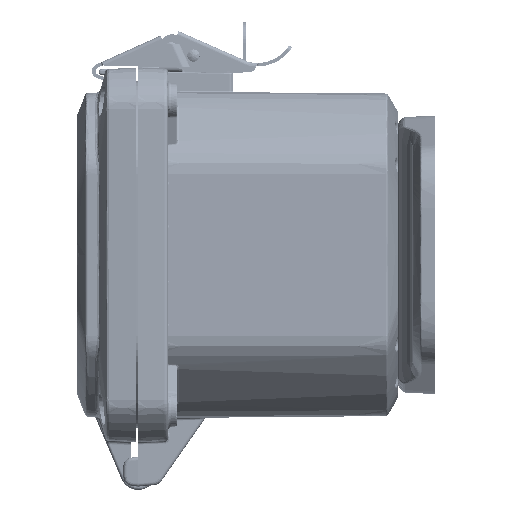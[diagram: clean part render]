
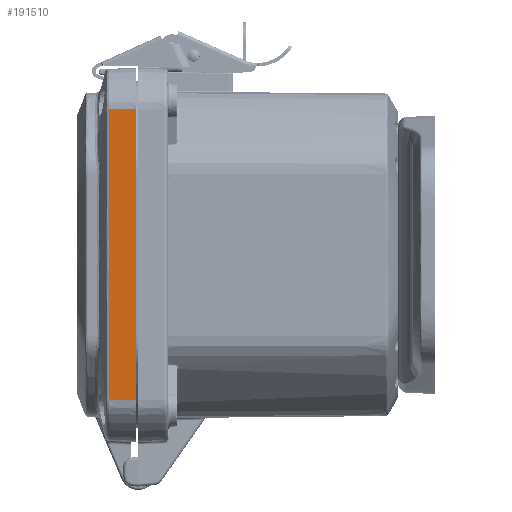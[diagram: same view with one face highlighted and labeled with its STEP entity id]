
A CAD part, left-side view. The second image highlights one B-rep face of the part: STEP entity #191510.
In plain terms, the highlighted planar face has unit normal (-0.999, 0.052, 0).
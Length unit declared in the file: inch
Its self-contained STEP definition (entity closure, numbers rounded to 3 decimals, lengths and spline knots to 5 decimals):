
#8304 = DIRECTION ( 'NONE',  ( -0.052, -0.999, 0. ) ) ;
#11425 = CARTESIAN_POINT ( 'NONE',  ( -3.50089, 0.36472, -1.91677 ) ) ;
#17567 = DIRECTION ( 'NONE',  ( 0., 0., 1. ) ) ;
#19034 = CARTESIAN_POINT ( 'NONE',  ( -3.52, 0., 1.95755 ) ) ;
#34159 = CARTESIAN_POINT ( 'NONE',  ( -3.50089, 0.36462, 0.00001 ) ) ;
#35480 = CARTESIAN_POINT ( 'NONE',  ( -3.52, 0., -1.95755 ) ) ;
#35716 = CARTESIAN_POINT ( 'NONE',  ( -3.5009, 0.36452, 1.67208 ) ) ;
#36004 = CARTESIAN_POINT ( 'NONE',  ( -3.50093, 0.36394, -1.95755 ) ) ;
#39518 = DIRECTION ( 'NONE',  ( -0.052, -0.999, 0. ) ) ;
#48846 = VECTOR ( 'NONE', #39518, 39.37008 ) ;
#54899 = CARTESIAN_POINT ( 'NONE',  ( -3.50093, 0.36394, -1.95755 ) ) ;
#57799 = PLANE ( 'NONE',  #126149 ) ;
#65878 = VERTEX_POINT ( 'NONE', #249072 ) ;
#70466 = CARTESIAN_POINT ( 'NONE',  ( -3.5009, 0.36448, 1.54973 ) ) ;
#71694 = CARTESIAN_POINT ( 'NONE',  ( -3.5009, 0.36447, 0.65252 ) ) ;
#73156 = ORIENTED_EDGE ( 'NONE', *, *, #88389, .F. ) ;
#74128 = CARTESIAN_POINT ( 'NONE',  ( -3.50089, 0.36457, -0.32625 ) ) ;
#75481 = CARTESIAN_POINT ( 'NONE',  ( -3.50089, 0.36457, 0.32626 ) ) ;
#75797 = FACE_OUTER_BOUND ( 'NONE', #114670, .T. ) ;
#82978 = EDGE_CURVE ( 'NONE', #65878, #84564, #133960, .T. ) ;
#84564 = VERTEX_POINT ( 'NONE', #133703 ) ;
#88389 = EDGE_CURVE ( 'NONE', #173795, #84564, #237711, .T. ) ;
#89030 = ORIENTED_EDGE ( 'NONE', *, *, #159435, .T. ) ;
#90849 = CARTESIAN_POINT ( 'NONE',  ( -3.50089, 0.36467, 1.90658 ) ) ;
#93015 = EDGE_CURVE ( 'NONE', #190501, #155354, #172355, .T. ) ;
#108712 = CARTESIAN_POINT ( 'NONE',  ( -3.50089, 0.3646, 1.81482 ) ) ;
#114670 = EDGE_LOOP ( 'NONE', ( #200026, #161889, #89030, #117883, #73156 ) ) ;
#117883 = ORIENTED_EDGE ( 'NONE', *, *, #82978, .T. ) ;
#120373 = B_SPLINE_CURVE_WITH_KNOTS ( 'NONE', 3,
 ( #207114, #172568, #168826, #153385, #90849, #246843, #108712, #35716, #70466, #171308, #167562, #71694, #75481, #132960 ),
 .UNSPECIFIED., .F., .F.,
 ( 4, 2, 2, 1, 1, 2, 2, 4 ),
 ( 0., 0.00078, 0.00155, 0.00311, 0.00622, 0.01243, 0.02486, 0.04972 ),
 .UNSPECIFIED. ) ;
#122004 = VECTOR ( 'NONE', #8304, 39.37008 ) ;
#126149 = AXIS2_PLACEMENT_3D ( 'NONE', #213736, #159982, #222592 ) ;
#129114 = CARTESIAN_POINT ( 'NONE',  ( -3.5009, 0.36447, -0.65251 ) ) ;
#132960 = CARTESIAN_POINT ( 'NONE',  ( -3.50089, 0.36462, 0.00001 ) ) ;
#133683 = EDGE_CURVE ( 'NONE', #173795, #190501, #120373, .T. ) ;
#133703 = CARTESIAN_POINT ( 'NONE',  ( -3.52, 0., 1.95755 ) ) ;
#133960 = LINE ( 'NONE', #35480, #176206 ) ;
#152053 = CARTESIAN_POINT ( 'NONE',  ( -3.5009, 0.36448, -1.54973 ) ) ;
#153385 = CARTESIAN_POINT ( 'NONE',  ( -3.50089, 0.36472, 1.91677 ) ) ;
#155354 = VERTEX_POINT ( 'NONE', #36004 ) ;
#159435 = EDGE_CURVE ( 'NONE', #155354, #65878, #202659, .T. ) ;
#159982 = DIRECTION ( 'NONE',  ( -0.999, 0.052, 0. ) ) ;
#161889 = ORIENTED_EDGE ( 'NONE', *, *, #93015, .T. ) ;
#167562 = CARTESIAN_POINT ( 'NONE',  ( -3.5009, 0.36442, 1.14191 ) ) ;
#168826 = CARTESIAN_POINT ( 'NONE',  ( -3.5009, 0.36451, 1.93716 ) ) ;
#169968 = CARTESIAN_POINT ( 'NONE',  ( -3.50089, 0.36464, -1.87599 ) ) ;
#171308 = CARTESIAN_POINT ( 'NONE',  ( -3.5009, 0.36442, 1.30504 ) ) ;
#172355 = B_SPLINE_CURVE_WITH_KNOTS ( 'NONE', 3,
 ( #226301, #74128, #129114, #225043, #227531, #152053, #190384, #230064, #169968, #247993, #11425, #245509, #209552, #54899 ),
 .UNSPECIFIED., .F., .F.,
 ( 4, 2, 2, 1, 1, 2, 2, 4 ),
 ( 0., 0.02486, 0.03729, 0.04351, 0.04661, 0.04817, 0.04895, 0.04972 ),
 .UNSPECIFIED. ) ;
#172568 = CARTESIAN_POINT ( 'NONE',  ( -3.50091, 0.36428, 1.94736 ) ) ;
#173795 = VERTEX_POINT ( 'NONE', #220077 ) ;
#176206 = VECTOR ( 'NONE', #17567, 39.37008 ) ;
#190384 = CARTESIAN_POINT ( 'NONE',  ( -3.5009, 0.36452, -1.67208 ) ) ;
#190501 = VERTEX_POINT ( 'NONE', #34159 ) ;
#191510 = ADVANCED_FACE ( 'NONE', ( #75797 ), #57799, .T. ) ;
#200026 = ORIENTED_EDGE ( 'NONE', *, *, #133683, .T. ) ;
#202659 = LINE ( 'NONE', #205189, #122004 ) ;
#205189 = CARTESIAN_POINT ( 'NONE',  ( -3.52, 0., -1.95755 ) ) ;
#207114 = CARTESIAN_POINT ( 'NONE',  ( -3.50093, 0.36394, 1.95755 ) ) ;
#209552 = CARTESIAN_POINT ( 'NONE',  ( -3.50091, 0.36428, -1.94736 ) ) ;
#213736 = CARTESIAN_POINT ( 'NONE',  ( -3.52, 0., -1.95755 ) ) ;
#220077 = CARTESIAN_POINT ( 'NONE',  ( -3.50093, 0.36394, 1.95755 ) ) ;
#222592 = DIRECTION ( 'NONE',  ( -0.052, -0.999, 0. ) ) ;
#225043 = CARTESIAN_POINT ( 'NONE',  ( -3.5009, 0.36442, -1.1419 ) ) ;
#226301 = CARTESIAN_POINT ( 'NONE',  ( -3.50089, 0.36462, 0.00001 ) ) ;
#227531 = CARTESIAN_POINT ( 'NONE',  ( -3.5009, 0.36442, -1.30503 ) ) ;
#230064 = CARTESIAN_POINT ( 'NONE',  ( -3.50089, 0.3646, -1.81482 ) ) ;
#237711 = LINE ( 'NONE', #19034, #48846 ) ;
#245509 = CARTESIAN_POINT ( 'NONE',  ( -3.5009, 0.36451, -1.93716 ) ) ;
#246843 = CARTESIAN_POINT ( 'NONE',  ( -3.50089, 0.36464, 1.87599 ) ) ;
#247993 = CARTESIAN_POINT ( 'NONE',  ( -3.50089, 0.36467, -1.90658 ) ) ;
#249072 = CARTESIAN_POINT ( 'NONE',  ( -3.52, 0., -1.95755 ) ) ;
